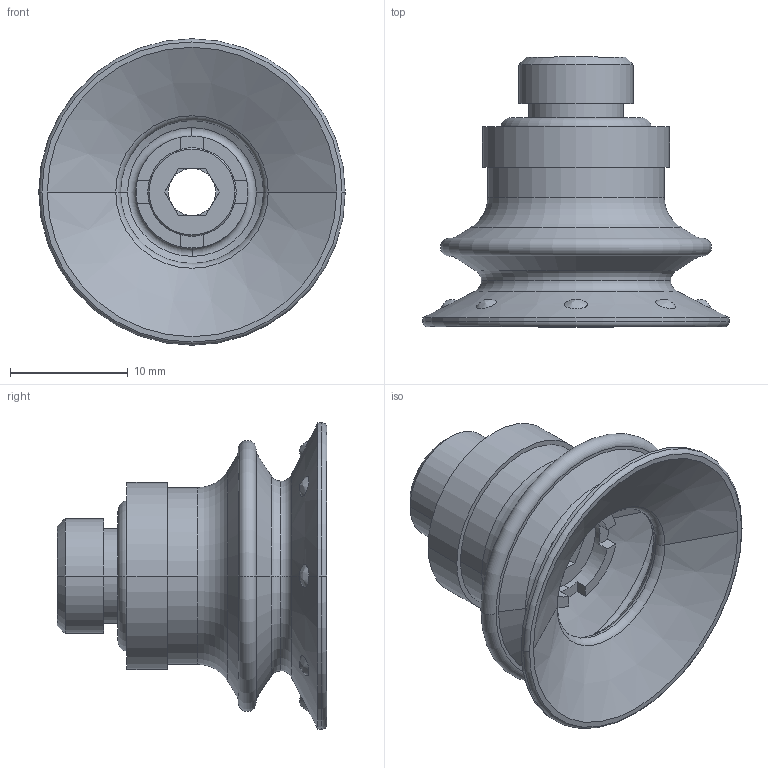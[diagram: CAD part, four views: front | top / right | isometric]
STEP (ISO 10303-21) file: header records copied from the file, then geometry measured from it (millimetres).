
FILE_DESCRIPTION (( 'STEP AP214' ), '1' );
FILE_NAME ('SB25P-60G-G18M.STEP', '2026-03-17T14:14:54', ( '' ), ( '' ), 'SwSTEP 2.0', 'SolidWorks 2025', '' );
FILE_SCHEMA (( 'AUTOMOTIVE_DESIGN' ));
Length unit declared in the file: inch
Products named in the file (3): SB25P-60G; 401.003; SB25P-60G-G18M
Assembly tree (2 placements, depth 2):
  SB25P-60G-G18M
    SB25P-60G
    401.003
Bounding box: 26 x 22.88 x 26 mm (x, y, z)
Volume: 2687.4 mm3; surface area: 3974.6 mm2
Topology: 3 solids, 3 shells, 128 faces, 290 edges, 182 vertices
Faces by surface type: plane 42, cylinder 32, torus 27, cone 19, bspline 8
Entity records: 4419 total; most frequent: CARTESIAN_POINT 1355, DIRECTION 682, ORIENTED_EDGE 576, EDGE_CURVE 288, AXIS2_PLACEMENT_3D 287, VERTEX_POINT 182, CIRCLE 162, EDGE_LOOP 150
